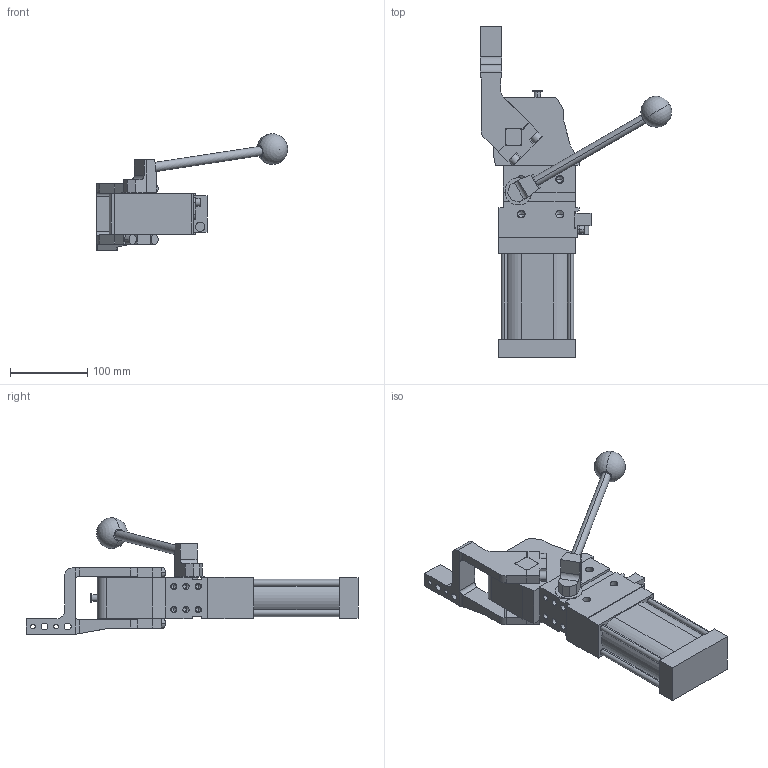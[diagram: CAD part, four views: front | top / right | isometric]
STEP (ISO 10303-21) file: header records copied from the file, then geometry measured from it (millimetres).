
FILE_DESCRIPTION (( 'STEP AP214' ), '1' );
FILE_NAME ('cplm63lah1di1g_107.STEP', '2023-01-26T14:37:38', ( '' ), ( '' ), 'SwSTEP 2.0', 'SolidWorks 2022', '' );
FILE_SCHEMA (( 'AUTOMOTIVE_DESIGN' ));
Length unit declared in the file: millimetre
Products named in the file (5): blocchetto_VEP_0; meccanica_cplm_63; leva_sx_offset_15_cpl63; comando_manuale_cplm_63; cplm63lah1di1g_107
Assembly tree (4 placements, depth 2):
  cplm63lah1di1g_107
    meccanica_cplm_63
    blocchetto_VEP_0
    leva_sx_offset_15_cpl63
    comando_manuale_cplm_63
Bounding box: 248.06 x 430.5 x 151 mm (x, y, z)
Volume: 1866260.9 mm3; surface area: 206781.4 mm2
Topology: 4 solids, 4 shells, 430 faces, 1128 edges, 699 vertices
Faces by surface type: plane 217, cylinder 161, cone 50, sphere 2
Entity records: 14523 total; most frequent: CARTESIAN_POINT 2312, DIRECTION 2297, ORIENTED_EDGE 2154, EDGE_CURVE 1077, AXIS2_PLACEMENT_3D 795, LINE 707, VECTOR 707, VERTEX_POINT 696
